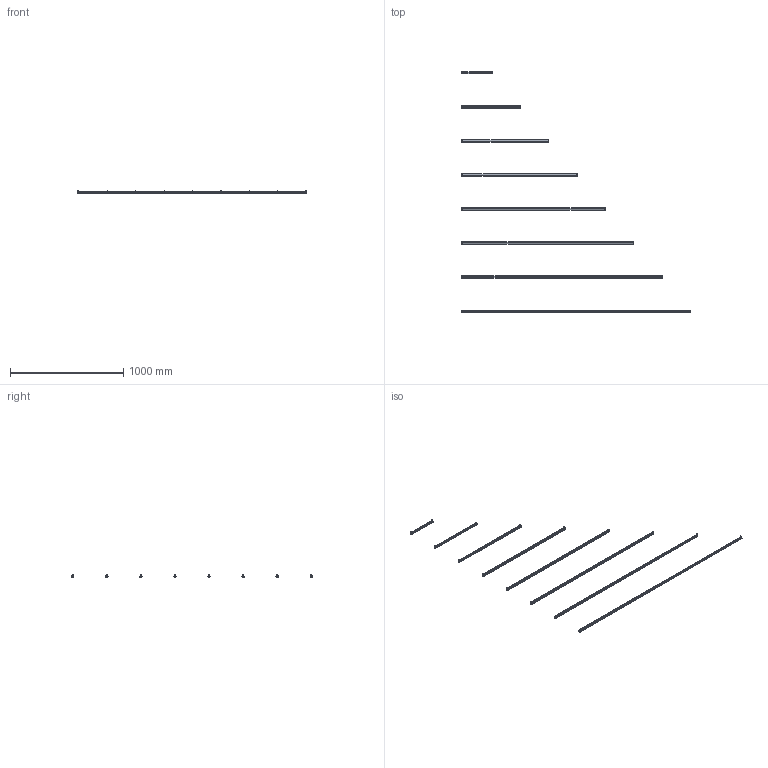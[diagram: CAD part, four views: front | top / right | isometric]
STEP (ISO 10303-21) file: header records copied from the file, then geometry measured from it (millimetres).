
FILE_DESCRIPTION(/* description */ (''),/* implementation_level */ '2;1');
FILE_NAME(/* name */ 'C:/Users/elena/OneDrive/Allegati di posta elettronica/Desktop/Piko colour 01C.step',/* time_stamp */ '2020-05-19T11:22:32+02:00',/* author */ (''),/* organization */ (''),/* preprocessor_version */ 'ST-DEVELOPER v18.1',/* originating_system */ 'Autodesk Translation Framework v9.3.0.1241',/* authorisation */ '');
FILE_SCHEMA (('AUTOMOTIVE_DESIGN { 1 0 10303 214 3 1 1 }'));
Length unit declared in the file: millimetre
Products named in the file (2): Piko colour 01C; 01C
Assembly tree (1 placements, depth 2):
  Piko colour 01C
    01C
Bounding box: 2020 x 2119.8 x 29.83 mm (x, y, z)
Volume: 2222997 mm3; surface area: 1074280.8 mm2
Topology: 48 solids, 48 shells, 993 faces, 2440 edges, 1623 vertices
Faces by surface type: cylinder 512, plane 417, bspline 48, cone 16
Full cylindrical faces by diameter (mm): 2.5 x32, 3 x16, 6 x16, 19.8 x16
Entity records: 39462 total; most frequent: CARTESIAN_POINT 15187, DIRECTION 5280, ORIENTED_EDGE 4880, EDGE_CURVE 2440, AXIS2_PLACEMENT_3D 1988, VERTEX_POINT 1623, LINE 1304, VECTOR 1304
